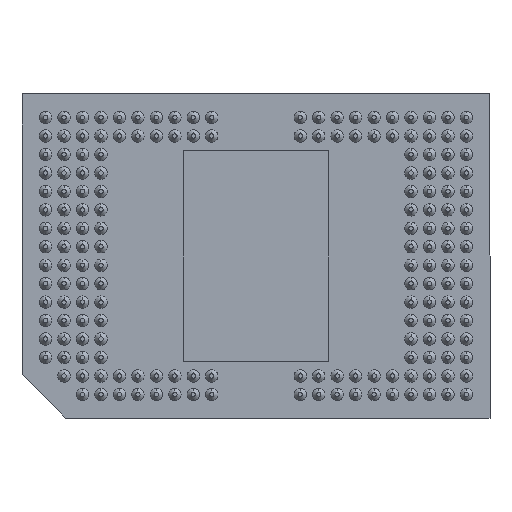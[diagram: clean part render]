
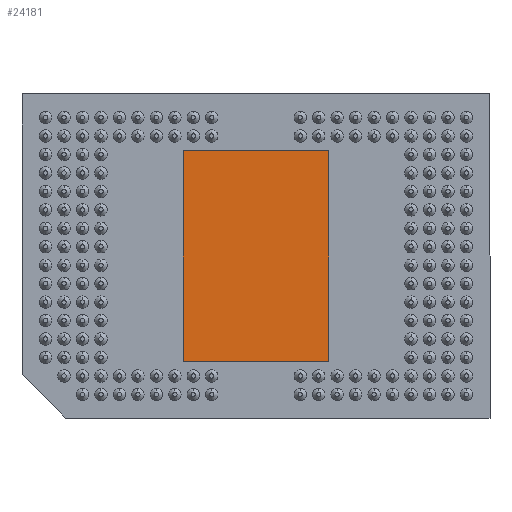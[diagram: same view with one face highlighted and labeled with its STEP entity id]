
A CAD part, front view. The second image highlights one B-rep face of the part: STEP entity #24181.
In plain terms, the highlighted planar face has unit normal (0, -1, 0) as drawn and (0, 0, -1) by its records, which use the part's own axes.
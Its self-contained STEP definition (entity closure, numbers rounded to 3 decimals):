
#454 = VERTEX_POINT ( 'NONE', #3774 ) ;
#483 = DIRECTION ( 'NONE',  ( 0., 0., 1. ) ) ;
#704 = DIRECTION ( 'NONE',  ( 1., 0., 0. ) ) ;
#925 = VERTEX_POINT ( 'NONE', #5497 ) ;
#1280 = VERTEX_POINT ( 'NONE', #20253 ) ;
#2216 = DIRECTION ( 'NONE',  ( 0., 1., 0. ) ) ;
#2259 = EDGE_CURVE ( 'NONE', #1280, #454, #4227, .T. ) ;
#3774 = CARTESIAN_POINT ( 'NONE',  ( 11.01, 6.5, 0. ) ) ;
#3804 = EDGE_CURVE ( 'NONE', #925, #1280, #14992, .T. ) ;
#4227 = LINE ( 'NONE', #15865, #16415 ) ;
#5359 = CARTESIAN_POINT ( 'NONE',  ( -3.5, -3.5, 0. ) ) ;
#5497 = CARTESIAN_POINT ( 'NONE',  ( -3.5, -3.5, 0. ) ) ;
#5886 = ORIENTED_EDGE ( 'NONE', *, *, #13400, .F. ) ;
#6183 = ORIENTED_EDGE ( 'NONE', *, *, #17124, .F. ) ;
#6489 = CARTESIAN_POINT ( 'NONE',  ( 0., 0., 0. ) ) ;
#8841 = EDGE_LOOP ( 'NONE', ( #5886, #6183, #15856, #21755 ) ) ;
#10007 = FACE_OUTER_BOUND ( 'NONE', #8841, .T. ) ;
#11784 = CARTESIAN_POINT ( 'NONE',  ( -3.5, 6.5, 0. ) ) ;
#13086 = VERTEX_POINT ( 'NONE', #21961 ) ;
#13400 = EDGE_CURVE ( 'NONE', #13086, #925, #23571, .T. ) ;
#14992 = LINE ( 'NONE', #5359, #15252 ) ;
#15252 = VECTOR ( 'NONE', #17122, 1000. ) ;
#15335 = VECTOR ( 'NONE', #19324, 1000. ) ;
#15856 = ORIENTED_EDGE ( 'NONE', *, *, #2259, .F. ) ;
#15865 = CARTESIAN_POINT ( 'NONE',  ( 11.01, -3.5, 0. ) ) ;
#16405 = DIRECTION ( 'NONE',  ( -1., 0., 0. ) ) ;
#16415 = VECTOR ( 'NONE', #2216, 1000. ) ;
#17122 = DIRECTION ( 'NONE',  ( 1., 0., 0. ) ) ;
#17124 = EDGE_CURVE ( 'NONE', #454, #13086, #24067, .T. ) ;
#17514 = VECTOR ( 'NONE', #16405, 1000. ) ;
#17644 = PLANE ( 'NONE',  #19596 ) ;
#19324 = DIRECTION ( 'NONE',  ( 0., -1., 0. ) ) ;
#19596 = AXIS2_PLACEMENT_3D ( 'NONE', #6489, #483, #704 ) ;
#20253 = CARTESIAN_POINT ( 'NONE',  ( 11.01, -3.5, 0. ) ) ;
#20552 = CARTESIAN_POINT ( 'NONE',  ( 11.01, 6.5, 0. ) ) ;
#21755 = ORIENTED_EDGE ( 'NONE', *, *, #3804, .F. ) ;
#21961 = CARTESIAN_POINT ( 'NONE',  ( -3.5, 6.5, 0. ) ) ;
#23571 = LINE ( 'NONE', #11784, #15335 ) ;
#24067 = LINE ( 'NONE', #20552, #17514 ) ;
#24181 = ADVANCED_FACE ( 'NONE', ( #10007 ), #17644, .F. ) ;
